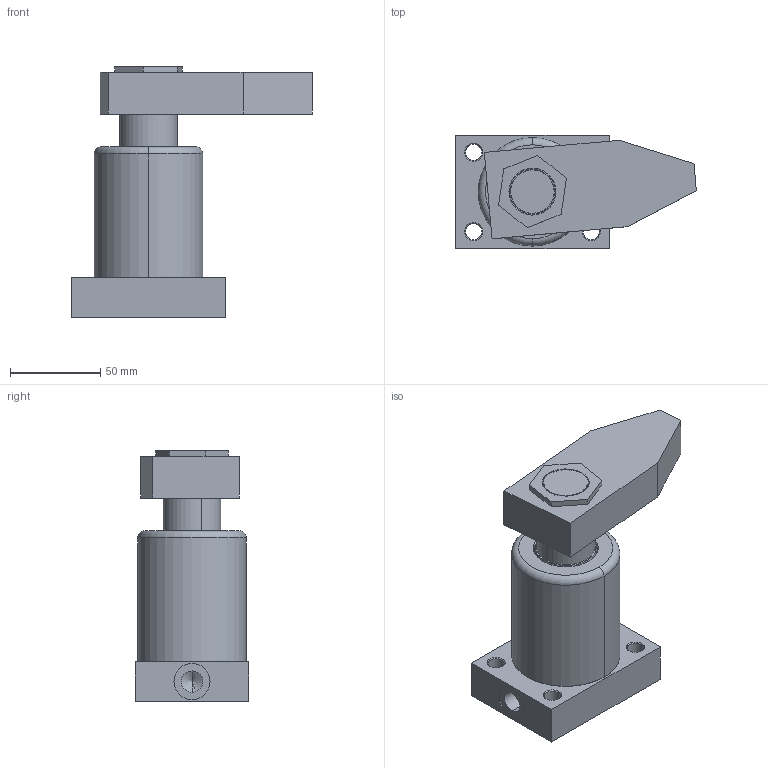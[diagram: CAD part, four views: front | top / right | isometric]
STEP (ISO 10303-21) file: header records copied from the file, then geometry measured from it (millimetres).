
FILE_DESCRIPTION (( 'STEP AP214' ), '1' );
FILE_NAME ('HMKA40.STEP', '2018-02-23T14:27:04', ( '' ), ( '' ), 'SwSTEP 2.0', 'SolidWorks 2016', '' );
FILE_SCHEMA (( 'AUTOMOTIVE_DESIGN' ));
Length unit declared in the file: millimetre
Products named in the file (12): K06-32X40_6X5_3X7; K22-32X42X7; K68-32X36X9_7 YATAKLAMA; HMKA40BORU; ARKAKAPAK; HMKA40; somun; KX static-32_92X3_1X4; USTPABUC1; P嵱; M尳; socket head cap screw_am_B18.3.1M - 6 x 1.0 x 30 Hex SHCS -- 30NHX
Assembly tree (18 placements, depth 2):
  HMKA40
    ARKAKAPAK
    HMKA40BORU
    K68-32X36X9_7 YATAKLAMA
    K22-32X42X7
    K06-32X40_6X5_3X7
    socket head cap screw_am_B18.3.1M - 6 x 1.0 x 30 Hex SHCS -- 30NHX  x8
    M尳
    P嵱
    USTPABUC1
    KX static-32_92X3_1X4
    somun
Bounding box: 133.21 x 63 x 138.91 mm (x, y, z)
Volume: 395666.2 mm3; surface area: 111053 mm2
Topology: 18 solids, 18 shells, 601 faces, 1292 edges, 765 vertices
Faces by surface type: plane 208, cylinder 178, cone 167, bspline 30, torus 18
Entity records: 12660 total; most frequent: CARTESIAN_POINT 2712, DIRECTION 2081, ORIENTED_EDGE 1760, EDGE_CURVE 880, AXIS2_PLACEMENT_3D 864, VERTEX_POINT 534, EDGE_LOOP 498, CIRCLE 461
